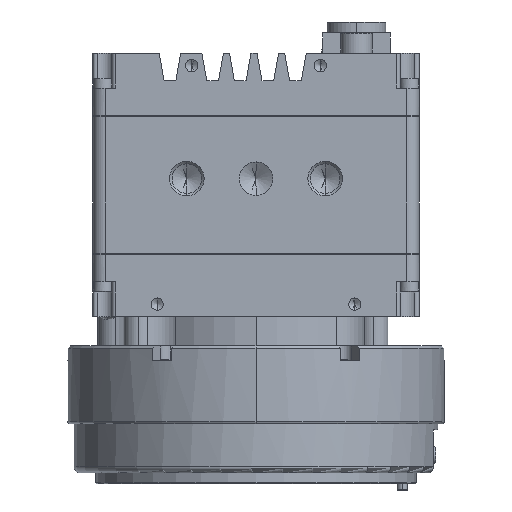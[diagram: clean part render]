
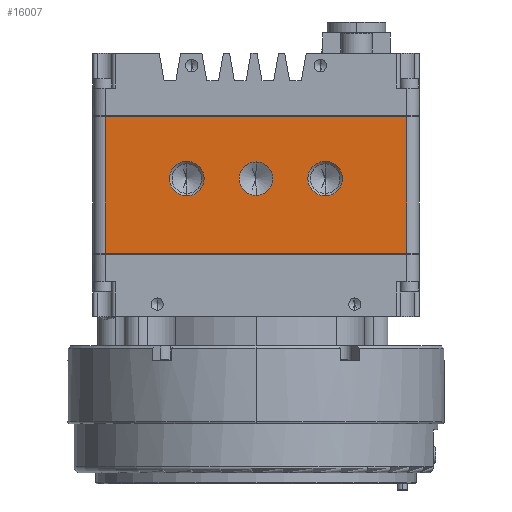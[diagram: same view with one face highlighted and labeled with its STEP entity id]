
A CAD part, front view. The second image highlights one B-rep face of the part: STEP entity #16007.
In plain terms, the highlighted planar face has unit normal (0, -1, 0).
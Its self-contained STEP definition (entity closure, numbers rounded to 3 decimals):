
#905 = VERTEX_POINT ( 'NONE', #28974 ) ;
#1046 = EDGE_CURVE ( 'NONE', #27976, #30016, #29188, .T. ) ;
#1653 = CARTESIAN_POINT ( 'NONE',  ( 0., -26.67, -16.078 ) ) ;
#4231 = VERTEX_POINT ( 'NONE', #66100 ) ;
#5420 = ORIENTED_EDGE ( 'NONE', *, *, #19914, .F. ) ;
#5617 = AXIS2_PLACEMENT_3D ( 'NONE', #5647, #69055, #20646 ) ;
#5647 = CARTESIAN_POINT ( 'NONE',  ( 14., -26.67, -12.7 ) ) ;
#5919 = CIRCLE ( 'NONE', #51001, 3.5 ) ;
#6423 = CARTESIAN_POINT ( 'NONE',  ( -30.48, -26.67, -27.813 ) ) ;
#7603 = ORIENTED_EDGE ( 'NONE', *, *, #66913, .F. ) ;
#8053 = CARTESIAN_POINT ( 'NONE',  ( 14., -26.67, -16.2 ) ) ;
#8652 = VECTOR ( 'NONE', #49298, 1000. ) ;
#9503 = CARTESIAN_POINT ( 'NONE',  ( -30.48, -26.67, -0.127 ) ) ;
#10124 = ORIENTED_EDGE ( 'NONE', *, *, #20409, .F. ) ;
#14892 = ORIENTED_EDGE ( 'NONE', *, *, #49164, .F. ) ;
#16007 = ADVANCED_FACE ( 'NONE', ( #44489, #32831, #61168, #51986 ), #68848, .F. ) ;
#16802 = DIRECTION ( 'NONE',  ( 0., -1., 0. ) ) ;
#17033 = EDGE_CURVE ( 'NONE', #41225, #905, #5919, .T. ) ;
#17816 = DIRECTION ( 'NONE',  ( 0., -1., 0. ) ) ;
#18852 = LINE ( 'NONE', #68877, #63804 ) ;
#19914 = EDGE_CURVE ( 'NONE', #4231, #58601, #49589, .T. ) ;
#20409 = EDGE_CURVE ( 'NONE', #29619, #67852, #22031, .T. ) ;
#20646 = DIRECTION ( 'NONE',  ( 0., 0., -1. ) ) ;
#21857 = DIRECTION ( 'NONE',  ( 0., -1., 0. ) ) ;
#22031 = LINE ( 'NONE', #6423, #8652 ) ;
#24897 = CIRCLE ( 'NONE', #45943, 3.378 ) ;
#27976 = VERTEX_POINT ( 'NONE', #47607 ) ;
#28974 = CARTESIAN_POINT ( 'NONE',  ( -14., -26.67, -9.2 ) ) ;
#29188 = LINE ( 'NONE', #9503, #55764 ) ;
#29619 = VERTEX_POINT ( 'NONE', #55705 ) ;
#29773 = CIRCLE ( 'NONE', #54148, 3.378 ) ;
#30016 = VERTEX_POINT ( 'NONE', #63978 ) ;
#31513 = CARTESIAN_POINT ( 'NONE',  ( 0., -26.67, -12.7 ) ) ;
#31820 = DIRECTION ( 'NONE',  ( 0., 0., 1. ) ) ;
#32831 = FACE_BOUND ( 'NONE', #48904, .T. ) ;
#34346 = CARTESIAN_POINT ( 'NONE',  ( 14., -26.67, -12.7 ) ) ;
#34626 = EDGE_LOOP ( 'NONE', ( #47560, #43780, #10124, #40317 ) ) ;
#34943 = DIRECTION ( 'NONE',  ( 0., -1., 0. ) ) ;
#35923 = DIRECTION ( 'NONE',  ( 0., -1., 0. ) ) ;
#36165 = DIRECTION ( 'NONE',  ( 0., 0., -1. ) ) ;
#36247 = ORIENTED_EDGE ( 'NONE', *, *, #69249, .F. ) ;
#36720 = LINE ( 'NONE', #50739, #65072 ) ;
#37004 = CIRCLE ( 'NONE', #52346, 3.5 ) ;
#40317 = ORIENTED_EDGE ( 'NONE', *, *, #59768, .T. ) ;
#41225 = VERTEX_POINT ( 'NONE', #57072 ) ;
#42207 = EDGE_CURVE ( 'NONE', #30016, #67852, #36720, .T. ) ;
#42283 = CARTESIAN_POINT ( 'NONE',  ( -33.02, -26.67, 0. ) ) ;
#43780 = ORIENTED_EDGE ( 'NONE', *, *, #42207, .T. ) ;
#44489 = FACE_BOUND ( 'NONE', #55513, .T. ) ;
#45943 = AXIS2_PLACEMENT_3D ( 'NONE', #31513, #35923, #36165 ) ;
#47054 = VERTEX_POINT ( 'NONE', #55810 ) ;
#47158 = DIRECTION ( 'NONE',  ( 0., 1., 0. ) ) ;
#47560 = ORIENTED_EDGE ( 'NONE', *, *, #1046, .T. ) ;
#47607 = CARTESIAN_POINT ( 'NONE',  ( 30.48, -26.67, -0.127 ) ) ;
#48904 = EDGE_LOOP ( 'NONE', ( #54243, #5420 ) ) ;
#49164 = EDGE_CURVE ( 'NONE', #905, #41225, #37004, .T. ) ;
#49298 = DIRECTION ( 'NONE',  ( -1., 0., 0. ) ) ;
#49589 = CIRCLE ( 'NONE', #53353, 3.5 ) ;
#50739 = CARTESIAN_POINT ( 'NONE',  ( -30.48, -26.67, 0. ) ) ;
#51001 = AXIS2_PLACEMENT_3D ( 'NONE', #61048, #34943, #56565 ) ;
#51986 = FACE_OUTER_BOUND ( 'NONE', #34626, .T. ) ;
#52155 = DIRECTION ( 'NONE',  ( -1., 0., 0. ) ) ;
#52248 = AXIS2_PLACEMENT_3D ( 'NONE', #42283, #47158, #31820 ) ;
#52346 = AXIS2_PLACEMENT_3D ( 'NONE', #53741, #21857, #53965 ) ;
#53353 = AXIS2_PLACEMENT_3D ( 'NONE', #34346, #17816, #54850 ) ;
#53741 = CARTESIAN_POINT ( 'NONE',  ( -14., -26.67, -12.7 ) ) ;
#53849 = DIRECTION ( 'NONE',  ( 0., 0., -1. ) ) ;
#53965 = DIRECTION ( 'NONE',  ( 0., 0., -1. ) ) ;
#54148 = AXIS2_PLACEMENT_3D ( 'NONE', #69210, #16802, #53849 ) ;
#54243 = ORIENTED_EDGE ( 'NONE', *, *, #65077, .F. ) ;
#54850 = DIRECTION ( 'NONE',  ( 0., 0., -1. ) ) ;
#55513 = EDGE_LOOP ( 'NONE', ( #60629, #14892 ) ) ;
#55705 = CARTESIAN_POINT ( 'NONE',  ( 30.48, -26.67, -27.813 ) ) ;
#55764 = VECTOR ( 'NONE', #52155, 1000. ) ;
#55810 = CARTESIAN_POINT ( 'NONE',  ( 0., -26.67, -9.322 ) ) ;
#56441 = CARTESIAN_POINT ( 'NONE',  ( -30.48, -26.67, -27.813 ) ) ;
#56565 = DIRECTION ( 'NONE',  ( 0., 0., -1. ) ) ;
#57017 = DIRECTION ( 'NONE',  ( 0., 0., -1. ) ) ;
#57072 = CARTESIAN_POINT ( 'NONE',  ( -14., -26.67, -16.2 ) ) ;
#57660 = EDGE_LOOP ( 'NONE', ( #7603, #36247 ) ) ;
#58601 = VERTEX_POINT ( 'NONE', #8053 ) ;
#59768 = EDGE_CURVE ( 'NONE', #29619, #27976, #18852, .T. ) ;
#60094 = CIRCLE ( 'NONE', #5617, 3.5 ) ;
#60629 = ORIENTED_EDGE ( 'NONE', *, *, #17033, .F. ) ;
#61048 = CARTESIAN_POINT ( 'NONE',  ( -14., -26.67, -12.7 ) ) ;
#61168 = FACE_BOUND ( 'NONE', #57660, .T. ) ;
#63804 = VECTOR ( 'NONE', #67949, 1000. ) ;
#63978 = CARTESIAN_POINT ( 'NONE',  ( -30.48, -26.67, -0.127 ) ) ;
#65072 = VECTOR ( 'NONE', #57017, 1000. ) ;
#65077 = EDGE_CURVE ( 'NONE', #58601, #4231, #60094, .T. ) ;
#66100 = CARTESIAN_POINT ( 'NONE',  ( 14., -26.67, -9.2 ) ) ;
#66913 = EDGE_CURVE ( 'NONE', #67800, #47054, #24897, .T. ) ;
#67800 = VERTEX_POINT ( 'NONE', #1653 ) ;
#67852 = VERTEX_POINT ( 'NONE', #56441 ) ;
#67949 = DIRECTION ( 'NONE',  ( 0., 0., 1. ) ) ;
#68848 = PLANE ( 'NONE',  #52248 ) ;
#68877 = CARTESIAN_POINT ( 'NONE',  ( 30.48, -26.67, 0. ) ) ;
#69055 = DIRECTION ( 'NONE',  ( 0., -1., 0. ) ) ;
#69210 = CARTESIAN_POINT ( 'NONE',  ( 0., -26.67, -12.7 ) ) ;
#69249 = EDGE_CURVE ( 'NONE', #47054, #67800, #29773, .T. ) ;
